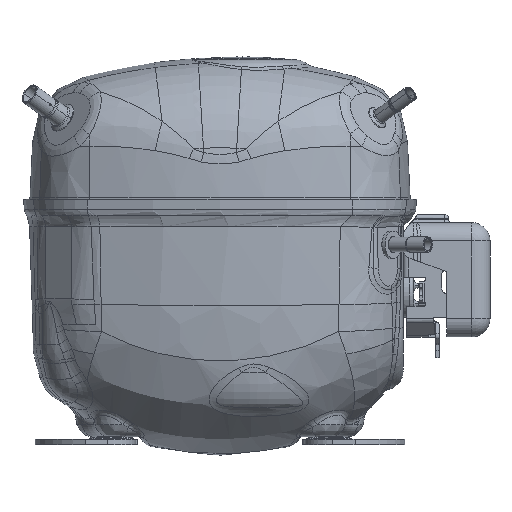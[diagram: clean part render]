
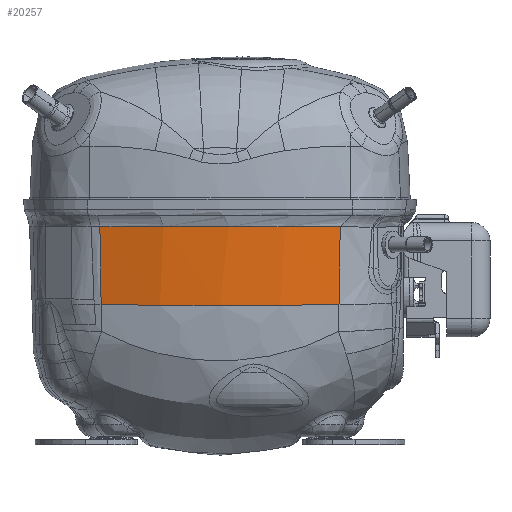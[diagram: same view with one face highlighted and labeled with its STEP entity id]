
A CAD part, left-side view. The second image highlights one B-rep face of the part: STEP entity #20257.
In plain terms, the highlighted toroidal (fillet/blend) face has major radius 577.563 mm and minor radius 225.485 mm.
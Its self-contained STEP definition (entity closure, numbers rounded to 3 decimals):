
#3225=CARTESIAN_POINT('',(-66.82,78.513,
-20.374));
#3237=CARTESIAN_POINT('',(-66.82,78.513,
-20.374));
#3238=CARTESIAN_POINT('',(-70.12,67.79,
-20.375));
#3239=CARTESIAN_POINT('',(-75.119,45.848,
-20.376));
#3240=CARTESIAN_POINT('',(-77.637,12.188,
-20.377));
#3241=CARTESIAN_POINT('',(-75.119,-21.472,
-20.376));
#3242=CARTESIAN_POINT('',(-70.12,-43.414,
-20.375));
#3243=CARTESIAN_POINT('',(-66.82,-54.137,-20.374));
#3245=CARTESIAN_POINT('',(-66.82,-54.137,-20.374));
#3246=CARTESIAN_POINT('',(-66.471,-54.066,
-34.691));
#3247=CARTESIAN_POINT('',(-65.779,-53.849,
-48.995));
#3248=CARTESIAN_POINT('',(-64.755,-53.458,
-63.259));
#3250=CARTESIAN_POINT('',(-64.755,77.834,
-63.259));
#3251=CARTESIAN_POINT('',(-65.779,78.225,
-48.995));
#3252=CARTESIAN_POINT('',(-66.471,78.442,
-34.691));
#3253=CARTESIAN_POINT('',(-66.82,78.513,
-20.374));
#10270=CARTESIAN_POINT('',(150.275,12.188,-46.017));
#10271=DIRECTION('',(-0.08,0.,0.997));
#10272=DIRECTION('',(-0.954,0.291,-0.076));
#10273=AXIS2_PLACEMENT_3D('',#10270,#10271,#10272);
#11401=VERTEX_POINT('',#3225);
#11402=VERTEX_POINT('',#3250);
#11405=VERTEX_POINT('',#3243);
#11406=VERTEX_POINT('',#3248);
#20243=CARTESIAN_POINT('',(725.989,12.188,
0.147));
#20244=DIRECTION('',(0.,-1.,0.));
#20245=DIRECTION('',(-1.,0.,-0.005));
#20246=AXIS2_PLACEMENT_3D('',#20243,#20244,#20245);
#20247=TOROIDAL_SURFACE('',#20246,577.563,225.485);
#20249=ORIENTED_EDGE('',*,*,#20248,.T.);
#20251=ORIENTED_EDGE('',*,*,#20250,.T.);
#20253=ORIENTED_EDGE('',*,*,#20252,.F.);
#20254=ORIENTED_EDGE('',*,*,#20232,.T.);
#20255=EDGE_LOOP('',(#20249,#20251,#20253,#20254));
#20256=FACE_OUTER_BOUND('',#20255,.F.);
#20257=ADVANCED_FACE('',(#20256),#20247,.T.);
#3244=B_SPLINE_CURVE_WITH_KNOTS('',3,(#3237,#3238,#3239,#3240,#3241,#3242,
#3243),.UNSPECIFIED.,.F.,.F.,(4,1,1,1,4),(0.,0.25,
0.5,0.75,1.),.UNSPECIFIED.);
#3249=B_SPLINE_CURVE_WITH_KNOTS('',3,(#3245,#3246,#3247,#3248),.UNSPECIFIED.,
.F.,.F.,(4,4),(0.,1.),.UNSPECIFIED.);
#3254=B_SPLINE_CURVE_WITH_KNOTS('',3,(#3250,#3251,#3252,#3253),.UNSPECIFIED.,
.F.,.F.,(4,4),(0.,1.),.UNSPECIFIED.);
#10274=CIRCLE('',#10273,225.487);
#20232=EDGE_CURVE('',#11402,#11401,#3254,.T.);
#20248=EDGE_CURVE('',#11401,#11405,#3244,.T.);
#20250=EDGE_CURVE('',#11405,#11406,#3249,.T.);
#20252=EDGE_CURVE('',#11402,#11406,#10274,.T.);
